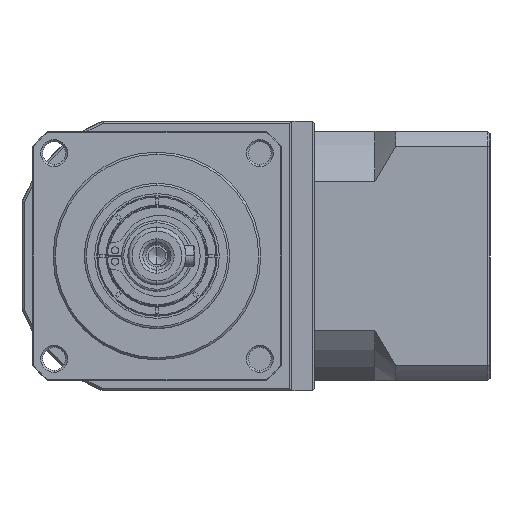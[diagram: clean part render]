
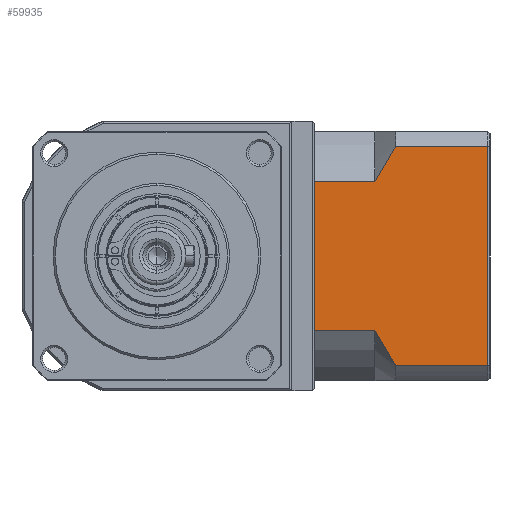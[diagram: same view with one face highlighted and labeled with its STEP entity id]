
A CAD part, left-side view. The second image highlights one B-rep face of the part: STEP entity #59935.
In plain terms, the highlighted planar face has unit normal (-1, 0, 0).
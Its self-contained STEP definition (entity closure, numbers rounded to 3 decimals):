
#5044 = CARTESIAN_POINT ( 'NONE',  ( -17.014, -84.885, -150.282 ) ) ;
#9306 = VERTEX_POINT ( 'NONE', #152421 ) ;
#9589 = VERTEX_POINT ( 'NONE', #64824 ) ;
#15508 = LINE ( 'NONE', #126439, #108997 ) ;
#16228 = VECTOR ( 'NONE', #52565, 1000. ) ;
#20420 = CARTESIAN_POINT ( 'NONE',  ( -17.014, -80.787, -107.16 ) ) ;
#28449 = ORIENTED_EDGE ( 'NONE', *, *, #64186, .F. ) ;
#28865 = EDGE_CURVE ( 'NONE', #76217, #32208, #113220, .T. ) ;
#29218 = B_SPLINE_CURVE_WITH_KNOTS ( 'NONE', 3,
 ( #138850, #53588, #151164, #78143, #5044, #90378 ),
 .UNSPECIFIED., .F., .F.,
 ( 4, 2, 4 ),
 ( 0.1, 0.104, 0.109 ),
 .UNSPECIFIED. ) ;
#30409 = ORIENTED_EDGE ( 'NONE', *, *, #28865, .T. ) ;
#31843 = ORIENTED_EDGE ( 'NONE', *, *, #79218, .F. ) ;
#32208 = VERTEX_POINT ( 'NONE', #50006 ) ;
#32789 = DIRECTION ( 'NONE',  ( 1., 0., 0. ) ) ;
#34852 = VECTOR ( 'NONE', #83320, 1000. ) ;
#40361 = CARTESIAN_POINT ( 'NONE',  ( -17.014, -80.787, -98.73 ) ) ;
#42978 = CARTESIAN_POINT ( 'NONE',  ( -17.014, -85.787, -151.645 ) ) ;
#44096 = CARTESIAN_POINT ( 'NONE',  ( -17.014, -85.787, -98.73 ) ) ;
#44450 = PLANE ( 'NONE',  #78250 ) ;
#46112 = CARTESIAN_POINT ( 'NONE',  ( -17.014, -80.787, -143.215 ) ) ;
#48332 = VECTOR ( 'NONE', #106412, 1000. ) ;
#50006 = CARTESIAN_POINT ( 'NONE',  ( -17.014, -66.287, -143.215 ) ) ;
#52565 = DIRECTION ( 'NONE',  ( 0., -1., 0. ) ) ;
#53176 = B_SPLINE_CURVE_WITH_KNOTS ( 'NONE', 3,
 ( #44096, #117118, #129409, #56343, #141581, #68592 ),
 .UNSPECIFIED., .F., .F.,
 ( 4, 2, 4 ),
 ( 0.052, 0.057, 0.062 ),
 .UNSPECIFIED. ) ;
#53354 = DIRECTION ( 'NONE',  ( 0., 0., 1. ) ) ;
#53588 = CARTESIAN_POINT ( 'NONE',  ( -17.014, -81.537, -144.672 ) ) ;
#56343 = CARTESIAN_POINT ( 'NONE',  ( -17.014, -82.338, -104.276 ) ) ;
#57059 = ORIENTED_EDGE ( 'NONE', *, *, #148381, .F. ) ;
#59935 = ADVANCED_FACE ( 'NONE', ( #117063 ), #44450, .F. ) ;
#64186 = EDGE_CURVE ( 'NONE', #93338, #114336, #149769, .T. ) ;
#64824 = CARTESIAN_POINT ( 'NONE',  ( -17.014, -107.987, -151.645 ) ) ;
#68592 = CARTESIAN_POINT ( 'NONE',  ( -17.014, -80.787, -107.16 ) ) ;
#75666 = EDGE_CURVE ( 'NONE', #9306, #120142, #29218, .T. ) ;
#76217 = VERTEX_POINT ( 'NONE', #113533 ) ;
#78143 = CARTESIAN_POINT ( 'NONE',  ( -17.014, -84.012, -148.902 ) ) ;
#78250 = AXIS2_PLACEMENT_3D ( 'NONE', #105751, #32789, #118016 ) ;
#78915 = CARTESIAN_POINT ( 'NONE',  ( -17.014, -80.787, -107.16 ) ) ;
#79218 = EDGE_CURVE ( 'NONE', #76217, #127639, #123381, .T. ) ;
#83320 = DIRECTION ( 'NONE',  ( 0., 1., 0. ) ) ;
#87377 = EDGE_CURVE ( 'NONE', #9306, #32208, #130430, .T. ) ;
#90378 = CARTESIAN_POINT ( 'NONE',  ( -17.014, -85.787, -151.645 ) ) ;
#90905 = VECTOR ( 'NONE', #93947, 1000. ) ;
#91435 = CARTESIAN_POINT ( 'NONE',  ( -17.014, -80.787, -151.645 ) ) ;
#93338 = VERTEX_POINT ( 'NONE', #118554 ) ;
#93947 = DIRECTION ( 'NONE',  ( 0., -1., 0. ) ) ;
#94068 = CARTESIAN_POINT ( 'NONE',  ( -17.014, -107.987, -98.73 ) ) ;
#97994 = VECTOR ( 'NONE', #143621, 1000. ) ;
#99652 = LINE ( 'NONE', #91435, #34852 ) ;
#105751 = CARTESIAN_POINT ( 'NONE',  ( -17.014, -108.487, -155.188 ) ) ;
#106412 = DIRECTION ( 'NONE',  ( 0., 0., -1. ) ) ;
#108997 = VECTOR ( 'NONE', #53354, 1000. ) ;
#113220 = LINE ( 'NONE', #118660, #48332 ) ;
#113533 = CARTESIAN_POINT ( 'NONE',  ( -17.014, -66.287, -107.16 ) ) ;
#114336 = VERTEX_POINT ( 'NONE', #94068 ) ;
#117063 = FACE_OUTER_BOUND ( 'NONE', #156379, .T. ) ;
#117118 = CARTESIAN_POINT ( 'NONE',  ( -17.014, -84.887, -100.09 ) ) ;
#118016 = DIRECTION ( 'NONE',  ( 0., 1., 0. ) ) ;
#118554 = CARTESIAN_POINT ( 'NONE',  ( -17.014, -85.787, -98.73 ) ) ;
#118660 = CARTESIAN_POINT ( 'NONE',  ( -17.014, -66.287, -155.188 ) ) ;
#118679 = ORIENTED_EDGE ( 'NONE', *, *, #75666, .T. ) ;
#120142 = VERTEX_POINT ( 'NONE', #42978 ) ;
#123381 = LINE ( 'NONE', #20420, #90905 ) ;
#124286 = ORIENTED_EDGE ( 'NONE', *, *, #131774, .T. ) ;
#126439 = CARTESIAN_POINT ( 'NONE',  ( -17.014, -107.987, -155.188 ) ) ;
#127639 = VERTEX_POINT ( 'NONE', #78915 ) ;
#129409 = CARTESIAN_POINT ( 'NONE',  ( -17.014, -84.014, -101.469 ) ) ;
#130430 = LINE ( 'NONE', #46112, #97994 ) ;
#131774 = EDGE_CURVE ( 'NONE', #93338, #127639, #53176, .T. ) ;
#132899 = ORIENTED_EDGE ( 'NONE', *, *, #87377, .F. ) ;
#138850 = CARTESIAN_POINT ( 'NONE',  ( -17.014, -80.787, -143.215 ) ) ;
#141581 = CARTESIAN_POINT ( 'NONE',  ( -17.014, -81.535, -105.708 ) ) ;
#143621 = DIRECTION ( 'NONE',  ( 0., 1., 0. ) ) ;
#148381 = EDGE_CURVE ( 'NONE', #9589, #120142, #99652, .T. ) ;
#149769 = LINE ( 'NONE', #40361, #16228 ) ;
#151164 = CARTESIAN_POINT ( 'NONE',  ( -17.014, -82.337, -146.097 ) ) ;
#152421 = CARTESIAN_POINT ( 'NONE',  ( -17.014, -80.787, -143.215 ) ) ;
#156379 = EDGE_LOOP ( 'NONE', ( #57059, #156571, #28449, #124286, #31843, #30409, #132899, #118679 ) ) ;
#156571 = ORIENTED_EDGE ( 'NONE', *, *, #158269, .T. ) ;
#158269 = EDGE_CURVE ( 'NONE', #9589, #114336, #15508, .T. ) ;
